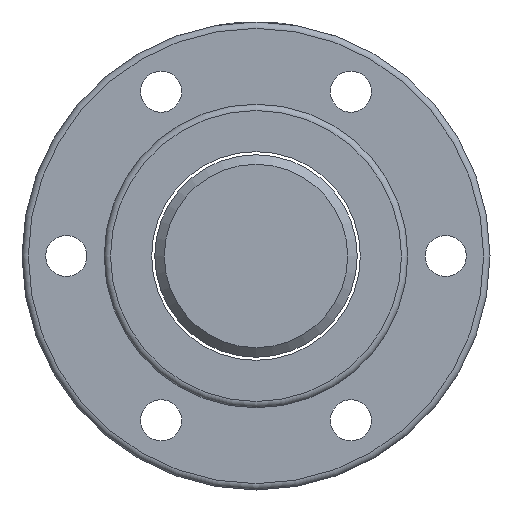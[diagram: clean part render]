
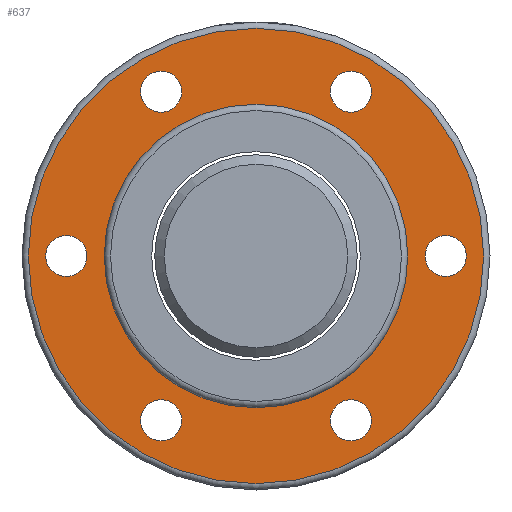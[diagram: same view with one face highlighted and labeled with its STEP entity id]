
A CAD part, left-side view. The second image highlights one B-rep face of the part: STEP entity #637.
In plain terms, the highlighted planar face has unit normal (-1, 0, 0).
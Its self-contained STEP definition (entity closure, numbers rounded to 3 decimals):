
#101=PLANE('',#756);
#177=ORIENTED_EDGE('',*,*,#275,.T.);
#178=ORIENTED_EDGE('',*,*,#276,.F.);
#179=ORIENTED_EDGE('',*,*,#271,.T.);
#180=ORIENTED_EDGE('',*,*,#267,.T.);
#181=ORIENTED_EDGE('',*,*,#263,.T.);
#182=ORIENTED_EDGE('',*,*,#259,.T.);
#183=ORIENTED_EDGE('',*,*,#255,.T.);
#184=ORIENTED_EDGE('',*,*,#251,.T.);
#251=EDGE_CURVE('',#312,#312,#363,.T.);
#255=EDGE_CURVE('',#316,#316,#367,.T.);
#259=EDGE_CURVE('',#320,#320,#371,.T.);
#263=EDGE_CURVE('',#324,#324,#375,.T.);
#267=EDGE_CURVE('',#328,#328,#379,.T.);
#271=EDGE_CURVE('',#332,#332,#383,.T.);
#275=EDGE_CURVE('',#336,#336,#387,.T.);
#276=EDGE_CURVE('',#337,#337,#388,.T.);
#312=VERTEX_POINT('',#1072);
#316=VERTEX_POINT('',#1083);
#320=VERTEX_POINT('',#1094);
#324=VERTEX_POINT('',#1105);
#328=VERTEX_POINT('',#1116);
#332=VERTEX_POINT('',#1127);
#336=VERTEX_POINT('',#1138);
#337=VERTEX_POINT('',#1141);
#363=CIRCLE('',#713,3.25);
#367=CIRCLE('',#720,3.25);
#371=CIRCLE('',#727,3.25);
#375=CIRCLE('',#734,3.25);
#379=CIRCLE('',#741,3.25);
#383=CIRCLE('',#748,3.25);
#387=CIRCLE('',#755,24.);
#388=CIRCLE('',#757,36.);
#462=EDGE_LOOP('',(#177));
#463=EDGE_LOOP('',(#178));
#464=EDGE_LOOP('',(#179));
#465=EDGE_LOOP('',(#180));
#466=EDGE_LOOP('',(#181));
#467=EDGE_LOOP('',(#182));
#468=EDGE_LOOP('',(#183));
#469=EDGE_LOOP('',(#184));
#565=FACE_BOUND('',#462,.T.);
#566=FACE_BOUND('',#463,.T.);
#567=FACE_BOUND('',#464,.T.);
#568=FACE_BOUND('',#465,.T.);
#569=FACE_BOUND('',#466,.T.);
#570=FACE_BOUND('',#467,.T.);
#571=FACE_BOUND('',#468,.T.);
#572=FACE_BOUND('',#469,.T.);
#637=ADVANCED_FACE('',(#565,#566,#567,#568,#569,#570,#571,#572),#101,.F.);
#713=AXIS2_PLACEMENT_3D('',#1071,#850,#851);
#720=AXIS2_PLACEMENT_3D('',#1082,#864,#865);
#727=AXIS2_PLACEMENT_3D('',#1093,#878,#879);
#734=AXIS2_PLACEMENT_3D('',#1104,#892,#893);
#741=AXIS2_PLACEMENT_3D('',#1115,#906,#907);
#748=AXIS2_PLACEMENT_3D('',#1126,#920,#921);
#755=AXIS2_PLACEMENT_3D('',#1137,#934,#935);
#756=AXIS2_PLACEMENT_3D('',#1139,#936,#937);
#757=AXIS2_PLACEMENT_3D('',#1140,#938,#939);
#850=DIRECTION('',(1.,0.,0.));
#851=DIRECTION('',(0.,0.,-1.));
#864=DIRECTION('',(1.,0.,0.));
#865=DIRECTION('',(0.,0.,-1.));
#878=DIRECTION('',(1.,0.,0.));
#879=DIRECTION('',(0.,0.,-1.));
#892=DIRECTION('',(1.,0.,0.));
#893=DIRECTION('',(0.,0.,-1.));
#906=DIRECTION('',(1.,0.,0.));
#907=DIRECTION('',(0.,0.,-1.));
#920=DIRECTION('',(1.,0.,0.));
#921=DIRECTION('',(0.,0.,-1.));
#934=DIRECTION('',(1.,0.,0.));
#935=DIRECTION('',(0.,0.,-1.));
#936=DIRECTION('',(1.,0.,0.));
#937=DIRECTION('',(0.,0.,-1.));
#938=DIRECTION('',(1.,0.,0.));
#939=DIRECTION('',(0.,0.,-1.));
#1071=CARTESIAN_POINT('',(-27.,15.,-25.981));
#1072=CARTESIAN_POINT('',(-27.,15.,-29.231));
#1082=CARTESIAN_POINT('',(-27.,-15.,-25.981));
#1083=CARTESIAN_POINT('',(-27.,-15.,-29.231));
#1093=CARTESIAN_POINT('',(-27.,-30.,0.));
#1094=CARTESIAN_POINT('',(-27.,-30.,-3.25));
#1104=CARTESIAN_POINT('',(-27.,-15.,25.981));
#1105=CARTESIAN_POINT('',(-27.,-15.,22.731));
#1115=CARTESIAN_POINT('',(-27.,15.,25.981));
#1116=CARTESIAN_POINT('',(-27.,15.,22.731));
#1126=CARTESIAN_POINT('',(-27.,30.,0.));
#1127=CARTESIAN_POINT('',(-27.,30.,-3.25));
#1137=CARTESIAN_POINT('',(-27.,0.,0.));
#1138=CARTESIAN_POINT('',(-27.,0.,-24.));
#1139=CARTESIAN_POINT('',(-27.,30.,0.));
#1140=CARTESIAN_POINT('',(-27.,0.,0.));
#1141=CARTESIAN_POINT('',(-27.,0.,-36.));
